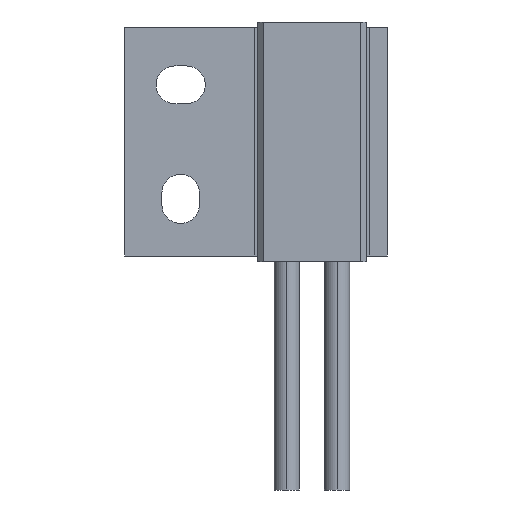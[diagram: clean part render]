
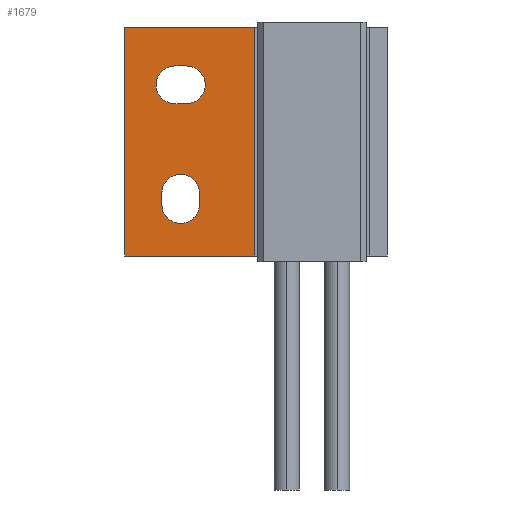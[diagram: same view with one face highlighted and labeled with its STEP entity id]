
A CAD part, left-side view. The second image highlights one B-rep face of the part: STEP entity #1679.
In plain terms, the highlighted planar face has unit normal (-1, 0, 0).
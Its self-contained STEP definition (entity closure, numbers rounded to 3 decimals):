
#25 = DIRECTION ( 'NONE',  ( 0., 0., 1. ) ) ;
#39 = CARTESIAN_POINT ( 'NONE',  ( -1.9, 12., -3.35 ) ) ;
#40 = LINE ( 'NONE', #802, #1383 ) ;
#82 = LINE ( 'NONE', #529, #1827 ) ;
#95 = EDGE_CURVE ( 'NONE', #605, #1127, #789, .T. ) ;
#112 = LINE ( 'NONE', #637, #1696 ) ;
#131 = VERTEX_POINT ( 'NONE', #1848 ) ;
#212 = DIRECTION ( 'NONE',  ( -1., 0., 0. ) ) ;
#232 = CARTESIAN_POINT ( 'NONE',  ( -1.9, 11.5, -15.5 ) ) ;
#245 = DIRECTION ( 'NONE',  ( 0., 0., 1. ) ) ;
#253 = CARTESIAN_POINT ( 'NONE',  ( -1.9, 16.4, -6.65 ) ) ;
#288 = CARTESIAN_POINT ( 'NONE',  ( -1.9, 12., -6.65 ) ) ;
#311 = VERTEX_POINT ( 'NONE', #1837 ) ;
#322 = CIRCLE ( 'NONE', #501, 1.65 ) ;
#333 = ORIENTED_EDGE ( 'NONE', *, *, #466, .F. ) ;
#346 = ORIENTED_EDGE ( 'NONE', *, *, #763, .F. ) ;
#394 = VERTEX_POINT ( 'NONE', #39 ) ;
#428 = DIRECTION ( 'NONE',  ( 0., -1., 0. ) ) ;
#439 = CARTESIAN_POINT ( 'NONE',  ( -1.9, 9.85, -20. ) ) ;
#446 = DIRECTION ( 'NONE',  ( 0., 0., 1. ) ) ;
#456 = CARTESIAN_POINT ( 'NONE',  ( -1.9, 9.85, -14.5 ) ) ;
#466 = EDGE_CURVE ( 'NONE', #957, #700, #82, .T. ) ;
#474 = DIRECTION ( 'NONE',  ( -1., 0., 0. ) ) ;
#501 = AXIS2_PLACEMENT_3D ( 'NONE', #1247, #212, #1402 ) ;
#511 = PLANE ( 'NONE',  #2054 ) ;
#526 = CARTESIAN_POINT ( 'NONE',  ( -1.9, 16.4, 0. ) ) ;
#529 = CARTESIAN_POINT ( 'NONE',  ( -1.9, 16.4, -20. ) ) ;
#536 = EDGE_CURVE ( 'NONE', #394, #2023, #693, .T. ) ;
#538 = LINE ( 'NONE', #1573, #2139 ) ;
#543 = CARTESIAN_POINT ( 'NONE',  ( -1.9, 16.4, -20. ) ) ;
#548 = DIRECTION ( 'NONE',  ( 0., 0., 1. ) ) ;
#558 = CARTESIAN_POINT ( 'NONE',  ( -1.9, 13.15, -14.5 ) ) ;
#591 = CIRCLE ( 'NONE', #828, 1.65 ) ;
#603 = AXIS2_PLACEMENT_3D ( 'NONE', #2061, #1108, #25 ) ;
#605 = VERTEX_POINT ( 'NONE', #288 ) ;
#631 = EDGE_CURVE ( 'NONE', #700, #131, #112, .T. ) ;
#637 = CARTESIAN_POINT ( 'NONE',  ( -1.9, 16.4, 0. ) ) ;
#640 = DIRECTION ( 'NONE',  ( 0., 0., 1. ) ) ;
#646 = CARTESIAN_POINT ( 'NONE',  ( -1.9, 13.65, -5. ) ) ;
#655 = VECTOR ( 'NONE', #1563, 1000. ) ;
#683 = VERTEX_POINT ( 'NONE', #1373 ) ;
#688 = AXIS2_PLACEMENT_3D ( 'NONE', #2082, #474, #1855 ) ;
#693 = CIRCLE ( 'NONE', #688, 1.65 ) ;
#700 = VERTEX_POINT ( 'NONE', #526 ) ;
#726 = DIRECTION ( 'NONE',  ( -1., 0., 0. ) ) ;
#763 = EDGE_CURVE ( 'NONE', #1127, #1596, #322, .T. ) ;
#775 = ORIENTED_EDGE ( 'NONE', *, *, #797, .F. ) ;
#782 = EDGE_CURVE ( 'NONE', #1596, #394, #1433, .T. ) ;
#786 = EDGE_CURVE ( 'NONE', #1834, #1083, #40, .T. ) ;
#789 = LINE ( 'NONE', #253, #1188 ) ;
#797 = EDGE_CURVE ( 'NONE', #1083, #683, #591, .T. ) ;
#802 = CARTESIAN_POINT ( 'NONE',  ( -1.9, 13.15, -20. ) ) ;
#822 = EDGE_CURVE ( 'NONE', #683, #1705, #2185, .T. ) ;
#826 = EDGE_CURVE ( 'NONE', #1705, #1834, #963, .T. ) ;
#828 = AXIS2_PLACEMENT_3D ( 'NONE', #232, #1416, #446 ) ;
#838 = DIRECTION ( 'NONE',  ( 0., 0., 1. ) ) ;
#845 = EDGE_CURVE ( 'NONE', #311, #131, #538, .T. ) ;
#888 = EDGE_CURVE ( 'NONE', #957, #311, #1090, .T. ) ;
#902 = CARTESIAN_POINT ( 'NONE',  ( -1.9, 13.15, -15.5 ) ) ;
#937 = ORIENTED_EDGE ( 'NONE', *, *, #786, .F. ) ;
#946 = DIRECTION ( 'NONE',  ( 0., 0., -1. ) ) ;
#957 = VERTEX_POINT ( 'NONE', #1629 ) ;
#963 = CIRCLE ( 'NONE', #603, 1.65 ) ;
#1018 = EDGE_CURVE ( 'NONE', #2023, #605, #1735, .T. ) ;
#1020 = ORIENTED_EDGE ( 'NONE', *, *, #536, .F. ) ;
#1083 = VERTEX_POINT ( 'NONE', #902 ) ;
#1090 = LINE ( 'NONE', #1126, #1456 ) ;
#1097 = ORIENTED_EDGE ( 'NONE', *, *, #95, .F. ) ;
#1108 = DIRECTION ( 'NONE',  ( -1., 0., 0. ) ) ;
#1126 = CARTESIAN_POINT ( 'NONE',  ( -1.9, 16.4, -20. ) ) ;
#1127 = VERTEX_POINT ( 'NONE', #1213 ) ;
#1188 = VECTOR ( 'NONE', #2140, 1000. ) ;
#1213 = CARTESIAN_POINT ( 'NONE',  ( -1.9, 11., -6.65 ) ) ;
#1224 = ORIENTED_EDGE ( 'NONE', *, *, #1018, .F. ) ;
#1225 = ORIENTED_EDGE ( 'NONE', *, *, #822, .F. ) ;
#1227 = AXIS2_PLACEMENT_3D ( 'NONE', #1650, #726, #1802 ) ;
#1247 = CARTESIAN_POINT ( 'NONE',  ( -1.9, 11., -5. ) ) ;
#1259 = FACE_BOUND ( 'NONE', #1450, .T. ) ;
#1319 = FACE_BOUND ( 'NONE', #1628, .T. ) ;
#1341 = FACE_OUTER_BOUND ( 'NONE', #1810, .T. ) ;
#1373 = CARTESIAN_POINT ( 'NONE',  ( -1.9, 9.85, -15.5 ) ) ;
#1383 = VECTOR ( 'NONE', #946, 1000. ) ;
#1402 = DIRECTION ( 'NONE',  ( 0., 0., 1. ) ) ;
#1406 = CARTESIAN_POINT ( 'NONE',  ( -1.9, 16.4, -3.35 ) ) ;
#1416 = DIRECTION ( 'NONE',  ( -1., 0., 0. ) ) ;
#1433 = LINE ( 'NONE', #1406, #655 ) ;
#1450 = EDGE_LOOP ( 'NONE', ( #1020, #1915, #346, #1097, #1224 ) ) ;
#1456 = VECTOR ( 'NONE', #1921, 1000. ) ;
#1563 = DIRECTION ( 'NONE',  ( 0., 1., 0. ) ) ;
#1573 = CARTESIAN_POINT ( 'NONE',  ( -1.9, 5., -20. ) ) ;
#1596 = VERTEX_POINT ( 'NONE', #2120 ) ;
#1598 = ORIENTED_EDGE ( 'NONE', *, *, #631, .F. ) ;
#1618 = DIRECTION ( 'NONE',  ( -1., 0., 0. ) ) ;
#1628 = EDGE_LOOP ( 'NONE', ( #1691, #1225, #775, #937 ) ) ;
#1629 = CARTESIAN_POINT ( 'NONE',  ( -1.9, 16.4, -20. ) ) ;
#1650 = CARTESIAN_POINT ( 'NONE',  ( -1.9, 12., -5. ) ) ;
#1679 = ADVANCED_FACE ( 'NONE', ( #1319, #1259, #1341 ), #511, .T. ) ;
#1691 = ORIENTED_EDGE ( 'NONE', *, *, #826, .F. ) ;
#1696 = VECTOR ( 'NONE', #428, 1000. ) ;
#1705 = VERTEX_POINT ( 'NONE', #456 ) ;
#1735 = CIRCLE ( 'NONE', #1227, 1.65 ) ;
#1737 = VECTOR ( 'NONE', #640, 1000. ) ;
#1802 = DIRECTION ( 'NONE',  ( 0., 0., 1. ) ) ;
#1810 = EDGE_LOOP ( 'NONE', ( #1598, #333, #2198, #2048 ) ) ;
#1827 = VECTOR ( 'NONE', #838, 1000. ) ;
#1834 = VERTEX_POINT ( 'NONE', #558 ) ;
#1837 = CARTESIAN_POINT ( 'NONE',  ( -1.9, 5., -20. ) ) ;
#1848 = CARTESIAN_POINT ( 'NONE',  ( -1.9, 5., 0. ) ) ;
#1855 = DIRECTION ( 'NONE',  ( 0., 0., 1. ) ) ;
#1915 = ORIENTED_EDGE ( 'NONE', *, *, #782, .F. ) ;
#1921 = DIRECTION ( 'NONE',  ( 0., -1., 0. ) ) ;
#2023 = VERTEX_POINT ( 'NONE', #646 ) ;
#2048 = ORIENTED_EDGE ( 'NONE', *, *, #845, .T. ) ;
#2054 = AXIS2_PLACEMENT_3D ( 'NONE', #543, #1618, #548 ) ;
#2061 = CARTESIAN_POINT ( 'NONE',  ( -1.9, 11.5, -14.5 ) ) ;
#2082 = CARTESIAN_POINT ( 'NONE',  ( -1.9, 12., -5. ) ) ;
#2120 = CARTESIAN_POINT ( 'NONE',  ( -1.9, 11., -3.35 ) ) ;
#2139 = VECTOR ( 'NONE', #245, 1000. ) ;
#2140 = DIRECTION ( 'NONE',  ( 0., -1., 0. ) ) ;
#2185 = LINE ( 'NONE', #439, #1737 ) ;
#2198 = ORIENTED_EDGE ( 'NONE', *, *, #888, .T. ) ;
